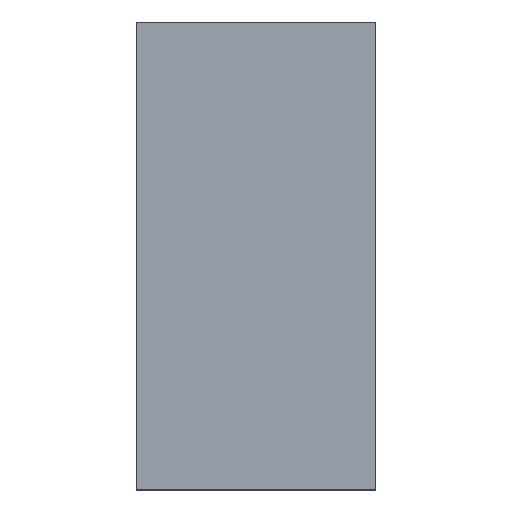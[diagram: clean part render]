
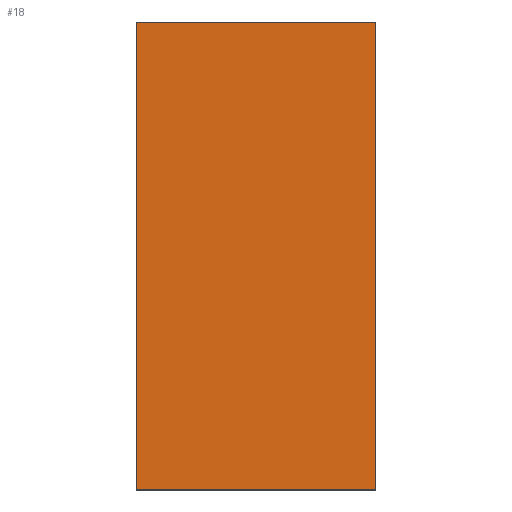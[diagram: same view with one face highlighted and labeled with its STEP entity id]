
A CAD part, front view. The second image highlights one B-rep face of the part: STEP entity #18.
In plain terms, the highlighted planar face has unit normal (0, -1, 0).
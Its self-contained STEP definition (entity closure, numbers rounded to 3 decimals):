
#18=ADVANCED_FACE('',(#160),#2044,.T.);
#160=FACE_OUTER_BOUND('',#290,.T.);
#290=EDGE_LOOP('',(#445,#446,#447,#448));
#445=ORIENTED_EDGE('',*,*,#1081,.T.);
#446=ORIENTED_EDGE('',*,*,#1084,.T.);
#447=ORIENTED_EDGE('',*,*,#1076,.F.);
#448=ORIENTED_EDGE('',*,*,#1083,.F.);
#1076=EDGE_CURVE('',#1721,#1724,#1400,.T.);
#1081=EDGE_CURVE('',#1727,#1728,#1405,.T.);
#1083=EDGE_CURVE('',#1727,#1721,#1407,.T.);
#1084=EDGE_CURVE('',#1728,#1724,#1408,.T.);
#1400=(
BOUNDED_CURVE()
B_SPLINE_CURVE(1,(#3129,#3130),.UNSPECIFIED.,.F.,.F.)
B_SPLINE_CURVE_WITH_KNOTS((2,2),(0.,51.),.UNSPECIFIED.)
CURVE()
GEOMETRIC_REPRESENTATION_ITEM()
RATIONAL_B_SPLINE_CURVE((1.,1.))
REPRESENTATION_ITEM('')
);
#1405=(
BOUNDED_CURVE()
B_SPLINE_CURVE(1,(#3139,#3140),.UNSPECIFIED.,.F.,.F.)
B_SPLINE_CURVE_WITH_KNOTS((2,2),(0.,51.),.UNSPECIFIED.)
CURVE()
GEOMETRIC_REPRESENTATION_ITEM()
RATIONAL_B_SPLINE_CURVE((1.,1.))
REPRESENTATION_ITEM('')
);
#1407=(
BOUNDED_CURVE()
B_SPLINE_CURVE(1,(#3143,#3144),.UNSPECIFIED.,.F.,.F.)
B_SPLINE_CURVE_WITH_KNOTS((2,2),(498.137,597.744),
 .UNSPECIFIED.)
CURVE()
GEOMETRIC_REPRESENTATION_ITEM()
RATIONAL_B_SPLINE_CURVE((1.,1.))
REPRESENTATION_ITEM('')
);
#1408=(
BOUNDED_CURVE()
B_SPLINE_CURVE(1,(#3145,#3146),.UNSPECIFIED.,.F.,.F.)
B_SPLINE_CURVE_WITH_KNOTS((2,2),(498.137,597.744),
 .UNSPECIFIED.)
CURVE()
GEOMETRIC_REPRESENTATION_ITEM()
RATIONAL_B_SPLINE_CURVE((1.,1.))
REPRESENTATION_ITEM('')
);
#1721=VERTEX_POINT('',#2907);
#1724=VERTEX_POINT('',#2910);
#1727=VERTEX_POINT('',#2913);
#1728=VERTEX_POINT('',#2914);
#2044=PLANE('',#2086);
#2086=AXIS2_PLACEMENT_3D('',#2136,#2111,$);
#2111=DIRECTION('',(0.,-1.,0.));
#2136=CARTESIAN_POINT('',(186.,-75.145,111.607));
#2907=CARTESIAN_POINT('',(186.,-75.145,12.));
#2910=CARTESIAN_POINT('',(135.,-75.145,12.));
#2913=CARTESIAN_POINT('',(186.,-75.145,111.607));
#2914=CARTESIAN_POINT('',(135.,-75.145,111.607));
#3129=CARTESIAN_POINT('',(186.,-75.145,12.));
#3130=CARTESIAN_POINT('',(135.,-75.145,12.));
#3139=CARTESIAN_POINT('',(186.,-75.145,111.607));
#3140=CARTESIAN_POINT('',(135.,-75.145,111.607));
#3143=CARTESIAN_POINT('',(186.,-75.145,111.607));
#3144=CARTESIAN_POINT('',(186.,-75.145,12.));
#3145=CARTESIAN_POINT('',(135.,-75.145,111.607));
#3146=CARTESIAN_POINT('',(135.,-75.145,12.));
